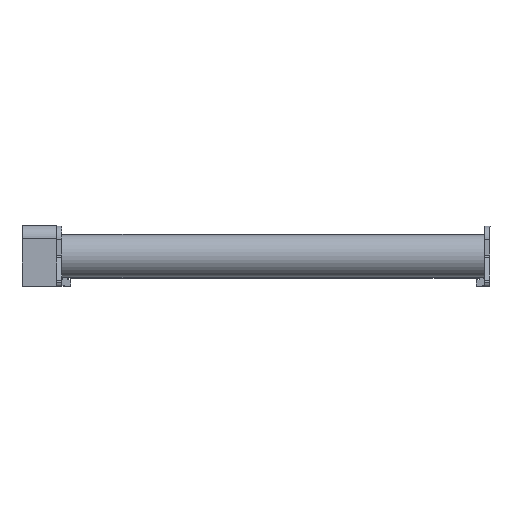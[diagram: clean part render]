
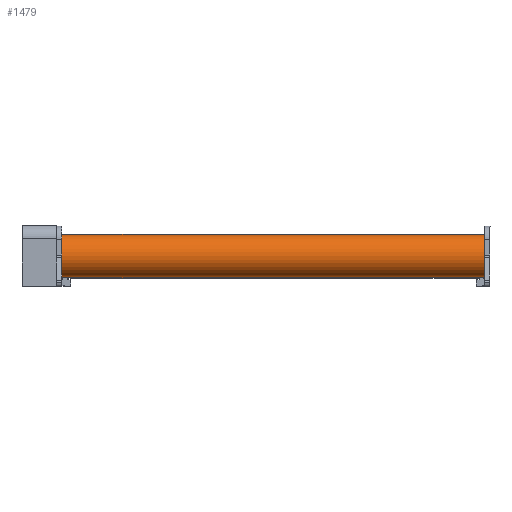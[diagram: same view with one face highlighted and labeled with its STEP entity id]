
A CAD part, front view. The second image highlights one B-rep face of the part: STEP entity #1479.
In plain terms, the highlighted cylindrical face has radius 125 mm (diameter 250 mm), a partial arc.
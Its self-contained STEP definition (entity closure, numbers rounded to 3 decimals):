
#161 = LINE ( 'NONE', #2934, #4711 ) ;
#241 = EDGE_CURVE ( 'NONE', #2815, #3318, #3954, .T. ) ;
#515 = AXIS2_PLACEMENT_3D ( 'NONE', #4547, #2256, #4927 ) ;
#585 = CARTESIAN_POINT ( 'NONE',  ( 30., 3175., 50. ) ) ;
#848 = VERTEX_POINT ( 'NONE', #585 ) ;
#866 = DIRECTION ( 'NONE',  ( 1., 0., 0. ) ) ;
#1037 = EDGE_CURVE ( 'NONE', #2815, #1523, #161, .T. ) ;
#1245 = EDGE_CURVE ( 'NONE', #1523, #848, #3172, .T. ) ;
#1271 = CARTESIAN_POINT ( 'NONE',  ( 2470., 3175., 50. ) ) ;
#1435 = CARTESIAN_POINT ( 'NONE',  ( 2470., 3175., 300. ) ) ;
#1479 = ADVANCED_FACE ( 'NONE', ( #3420 ), #4588, .T. ) ;
#1523 = VERTEX_POINT ( 'NONE', #2591 ) ;
#1688 = AXIS2_PLACEMENT_3D ( 'NONE', #4369, #2120, #2105 ) ;
#2105 = DIRECTION ( 'NONE',  ( 0., 0., 1. ) ) ;
#2120 = DIRECTION ( 'NONE',  ( -1., 0., 0. ) ) ;
#2256 = DIRECTION ( 'NONE',  ( 1., 0., 0. ) ) ;
#2395 = DIRECTION ( 'NONE',  ( 0., 0., -1. ) ) ;
#2477 = ORIENTED_EDGE ( 'NONE', *, *, #2519, .F. ) ;
#2519 = EDGE_CURVE ( 'NONE', #3318, #848, #3694, .T. ) ;
#2591 = CARTESIAN_POINT ( 'NONE',  ( 30., 3175., 300. ) ) ;
#2672 = VECTOR ( 'NONE', #3625, 1000. ) ;
#2771 = ORIENTED_EDGE ( 'NONE', *, *, #1245, .T. ) ;
#2797 = AXIS2_PLACEMENT_3D ( 'NONE', #4687, #866, #2395 ) ;
#2815 = VERTEX_POINT ( 'NONE', #1435 ) ;
#2927 = EDGE_LOOP ( 'NONE', ( #2477, #3007, #2946, #2771 ) ) ;
#2934 = CARTESIAN_POINT ( 'NONE',  ( 2470., 3175., 300. ) ) ;
#2946 = ORIENTED_EDGE ( 'NONE', *, *, #1037, .T. ) ;
#3007 = ORIENTED_EDGE ( 'NONE', *, *, #241, .F. ) ;
#3172 = CIRCLE ( 'NONE', #2797, 125. ) ;
#3318 = VERTEX_POINT ( 'NONE', #3336 ) ;
#3336 = CARTESIAN_POINT ( 'NONE',  ( 2470., 3175., 50. ) ) ;
#3420 = FACE_OUTER_BOUND ( 'NONE', #2927, .T. ) ;
#3625 = DIRECTION ( 'NONE',  ( -1., 0., 0. ) ) ;
#3694 = LINE ( 'NONE', #1271, #2672 ) ;
#3954 = CIRCLE ( 'NONE', #515, 125. ) ;
#4170 = DIRECTION ( 'NONE',  ( -1., 0., 0. ) ) ;
#4369 = CARTESIAN_POINT ( 'NONE',  ( 2470., 3175., 175. ) ) ;
#4547 = CARTESIAN_POINT ( 'NONE',  ( 2470., 3175., 175. ) ) ;
#4588 = CYLINDRICAL_SURFACE ( 'NONE', #1688, 125. ) ;
#4687 = CARTESIAN_POINT ( 'NONE',  ( 30., 3175., 175. ) ) ;
#4711 = VECTOR ( 'NONE', #4170, 1000. ) ;
#4927 = DIRECTION ( 'NONE',  ( 0., 0., -1. ) ) ;
